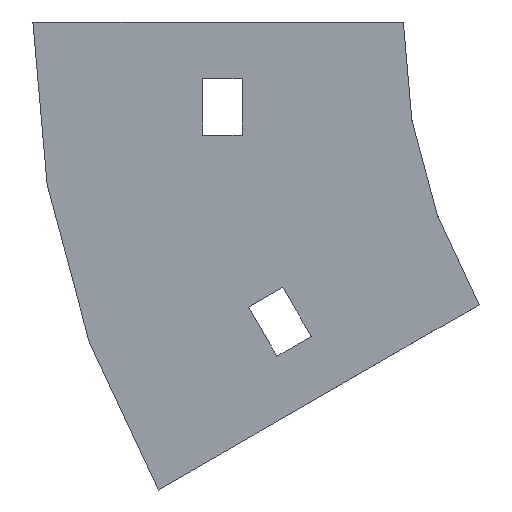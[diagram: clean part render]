
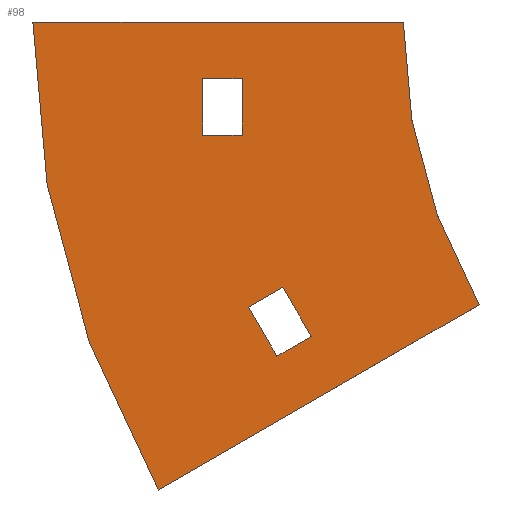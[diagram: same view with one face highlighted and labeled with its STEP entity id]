
A CAD part, left-side view. The second image highlights one B-rep face of the part: STEP entity #98.
In plain terms, the highlighted planar face has unit normal (-1, 0, 0).
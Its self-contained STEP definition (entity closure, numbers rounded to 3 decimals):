
#11 = CARTESIAN_POINT ( 'NONE',  ( -302., 0., 0. ) ) ;
#15 = CARTESIAN_POINT ( 'NONE',  ( -302., -100., 0. ) ) ;
#46 = ORIENTED_EDGE ( 'NONE', *, *, #497, .T. ) ;
#57 = VECTOR ( 'NONE', #931, 1000. ) ;
#68 = EDGE_LOOP ( 'NONE', ( #413, #707, #815, #285 ) ) ;
#74 = CARTESIAN_POINT ( 'NONE',  ( -302., 27.346, -50.429 ) ) ;
#78 = CARTESIAN_POINT ( 'NONE',  ( -302., 35.5, -20. ) ) ;
#84 = CARTESIAN_POINT ( 'NONE',  ( -302., 35.5, -20. ) ) ;
#95 = EDGE_CURVE ( 'NONE', #901, #283, #656, .T. ) ;
#98 = ADVANCED_FACE ( 'NONE', ( #484, #1011, #1089 ), #564, .T. ) ;
#114 = ORIENTED_EDGE ( 'NONE', *, *, #926, .F. ) ;
#125 = AXIS2_PLACEMENT_3D ( 'NONE', #246, #259, #713 ) ;
#145 = DIRECTION ( 'NONE',  ( 0., 0., 1. ) ) ;
#170 = DIRECTION ( 'NONE',  ( 0., -0.5, -0.866 ) ) ;
#171 = EDGE_LOOP ( 'NONE', ( #992, #46, #843, #1018 ) ) ;
#191 = ORIENTED_EDGE ( 'NONE', *, *, #240, .F. ) ;
#196 = DIRECTION ( 'NONE',  ( -1., 0., 0. ) ) ;
#235 = CARTESIAN_POINT ( 'NONE',  ( -302., -13.397, -50. ) ) ;
#240 = EDGE_CURVE ( 'NONE', #283, #719, #850, .T. ) ;
#246 = CARTESIAN_POINT ( 'NONE',  ( -302., -100., 0. ) ) ;
#248 = CARTESIAN_POINT ( 'NONE',  ( -302., 21.284, -46.929 ) ) ;
#259 = DIRECTION ( 'NONE',  ( 1., 0., 0. ) ) ;
#278 = VECTOR ( 'NONE', #668, 1000. ) ;
#283 = VERTEX_POINT ( 'NONE', #1048 ) ;
#285 = ORIENTED_EDGE ( 'NONE', *, *, #674, .F. ) ;
#291 = EDGE_CURVE ( 'NONE', #767, #591, #677, .T. ) ;
#295 = DIRECTION ( 'NONE',  ( 0., 0., 1. ) ) ;
#301 = VERTEX_POINT ( 'NONE', #974 ) ;
#303 = CARTESIAN_POINT ( 'NONE',  ( -302., 65.5, 0. ) ) ;
#309 = EDGE_CURVE ( 'NONE', #975, #741, #798, .T. ) ;
#320 = VECTOR ( 'NONE', #412, 1000. ) ;
#341 = DIRECTION ( 'NONE',  ( -1., 0., 0. ) ) ;
#367 = VERTEX_POINT ( 'NONE', #572 ) ;
#387 = LINE ( 'NONE', #1146, #642 ) ;
#389 = ORIENTED_EDGE ( 'NONE', *, *, #999, .F. ) ;
#398 = VECTOR ( 'NONE', #898, 1000. ) ;
#409 = CIRCLE ( 'NONE', #1063, 100. ) ;
#412 = DIRECTION ( 'NONE',  ( 0., 0.866, -0.5 ) ) ;
#413 = ORIENTED_EDGE ( 'NONE', *, *, #422, .F. ) ;
#422 = EDGE_CURVE ( 'NONE', #1109, #849, #409, .T. ) ;
#436 = CARTESIAN_POINT ( 'NONE',  ( -302., 43.327, -82.75 ) ) ;
#456 = CARTESIAN_POINT ( 'NONE',  ( -302., 65.5, 0. ) ) ;
#476 = CARTESIAN_POINT ( 'NONE',  ( -302., 35.5, -10. ) ) ;
#481 = VECTOR ( 'NONE', #1150, 1000. ) ;
#484 = FACE_BOUND ( 'NONE', #171, .T. ) ;
#497 = EDGE_CURVE ( 'NONE', #367, #975, #387, .T. ) ;
#513 = DIRECTION ( 'NONE',  ( 0., 0.866, -0.5 ) ) ;
#518 = VECTOR ( 'NONE', #513, 1000. ) ;
#532 = VERTEX_POINT ( 'NONE', #618 ) ;
#564 = PLANE ( 'NONE',  #799 ) ;
#572 = CARTESIAN_POINT ( 'NONE',  ( -302., 28.5, -10. ) ) ;
#575 = EDGE_CURVE ( 'NONE', #532, #367, #676, .T. ) ;
#591 = VERTEX_POINT ( 'NONE', #303 ) ;
#597 = CARTESIAN_POINT ( 'NONE',  ( -302., 22.346, -59.09 ) ) ;
#609 = CARTESIAN_POINT ( 'NONE',  ( -302., -100., 0. ) ) ;
#618 = CARTESIAN_POINT ( 'NONE',  ( -302., 35.5, -10. ) ) ;
#642 = VECTOR ( 'NONE', #789, 1000. ) ;
#644 = ORIENTED_EDGE ( 'NONE', *, *, #95, .F. ) ;
#646 = LINE ( 'NONE', #726, #398 ) ;
#656 = LINE ( 'NONE', #747, #278 ) ;
#668 = DIRECTION ( 'NONE',  ( 0., -0.866, 0.5 ) ) ;
#674 = EDGE_CURVE ( 'NONE', #849, #767, #699, .T. ) ;
#676 = LINE ( 'NONE', #476, #57 ) ;
#677 = CIRCLE ( 'NONE', #125, 165.5 ) ;
#680 = CARTESIAN_POINT ( 'NONE',  ( -302., 16.284, -55.59 ) ) ;
#699 = LINE ( 'NONE', #235, #518 ) ;
#707 = ORIENTED_EDGE ( 'NONE', *, *, #809, .F. ) ;
#713 = DIRECTION ( 'NONE',  ( 0., 0., 1. ) ) ;
#719 = VERTEX_POINT ( 'NONE', #248 ) ;
#726 = CARTESIAN_POINT ( 'NONE',  ( -302., 35.5, -10. ) ) ;
#736 = CARTESIAN_POINT ( 'NONE',  ( -302., -13.397, -50. ) ) ;
#741 = VERTEX_POINT ( 'NONE', #78 ) ;
#747 = CARTESIAN_POINT ( 'NONE',  ( -302., 22.346, -59.09 ) ) ;
#767 = VERTEX_POINT ( 'NONE', #436 ) ;
#789 = DIRECTION ( 'NONE',  ( 0., 0., -1. ) ) ;
#798 = LINE ( 'NONE', #84, #481 ) ;
#799 = AXIS2_PLACEMENT_3D ( 'NONE', #15, #196, #295 ) ;
#809 = EDGE_CURVE ( 'NONE', #591, #1109, #903, .T. ) ;
#815 = ORIENTED_EDGE ( 'NONE', *, *, #291, .F. ) ;
#840 = VECTOR ( 'NONE', #859, 1000. ) ;
#843 = ORIENTED_EDGE ( 'NONE', *, *, #309, .T. ) ;
#849 = VERTEX_POINT ( 'NONE', #736 ) ;
#850 = LINE ( 'NONE', #680, #840 ) ;
#859 = DIRECTION ( 'NONE',  ( 0., 0.5, 0.866 ) ) ;
#891 = VECTOR ( 'NONE', #1076, 1000. ) ;
#898 = DIRECTION ( 'NONE',  ( 0., 0., 1. ) ) ;
#901 = VERTEX_POINT ( 'NONE', #1005 ) ;
#903 = LINE ( 'NONE', #456, #891 ) ;
#926 = EDGE_CURVE ( 'NONE', #719, #301, #1126, .T. ) ;
#931 = DIRECTION ( 'NONE',  ( 0., -1., 0. ) ) ;
#957 = CARTESIAN_POINT ( 'NONE',  ( -302., 28.5, -20. ) ) ;
#973 = LINE ( 'NONE', #597, #1136 ) ;
#974 = CARTESIAN_POINT ( 'NONE',  ( -302., 27.346, -50.429 ) ) ;
#975 = VERTEX_POINT ( 'NONE', #957 ) ;
#992 = ORIENTED_EDGE ( 'NONE', *, *, #575, .T. ) ;
#999 = EDGE_CURVE ( 'NONE', #301, #901, #973, .T. ) ;
#1005 = CARTESIAN_POINT ( 'NONE',  ( -302., 22.346, -59.09 ) ) ;
#1011 = FACE_OUTER_BOUND ( 'NONE', #68, .T. ) ;
#1018 = ORIENTED_EDGE ( 'NONE', *, *, #1049, .T. ) ;
#1048 = CARTESIAN_POINT ( 'NONE',  ( -302., 16.284, -55.59 ) ) ;
#1049 = EDGE_CURVE ( 'NONE', #741, #532, #646, .T. ) ;
#1063 = AXIS2_PLACEMENT_3D ( 'NONE', #609, #341, #145 ) ;
#1076 = DIRECTION ( 'NONE',  ( 0., -1., 0. ) ) ;
#1089 = FACE_BOUND ( 'NONE', #1116, .T. ) ;
#1109 = VERTEX_POINT ( 'NONE', #11 ) ;
#1116 = EDGE_LOOP ( 'NONE', ( #191, #644, #389, #114 ) ) ;
#1126 = LINE ( 'NONE', #74, #320 ) ;
#1136 = VECTOR ( 'NONE', #170, 1000. ) ;
#1146 = CARTESIAN_POINT ( 'NONE',  ( -302., 28.5, -10. ) ) ;
#1150 = DIRECTION ( 'NONE',  ( 0., 1., 0. ) ) ;
